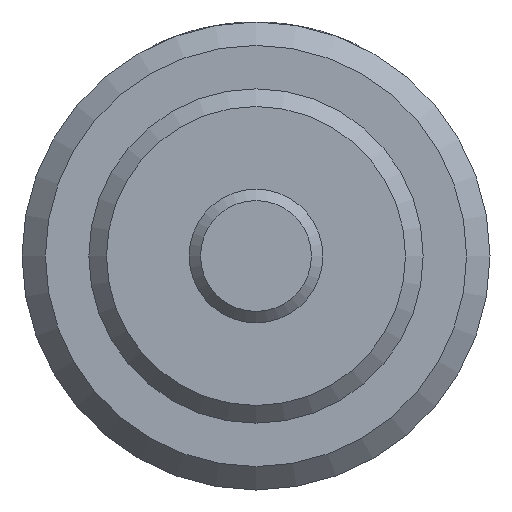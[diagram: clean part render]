
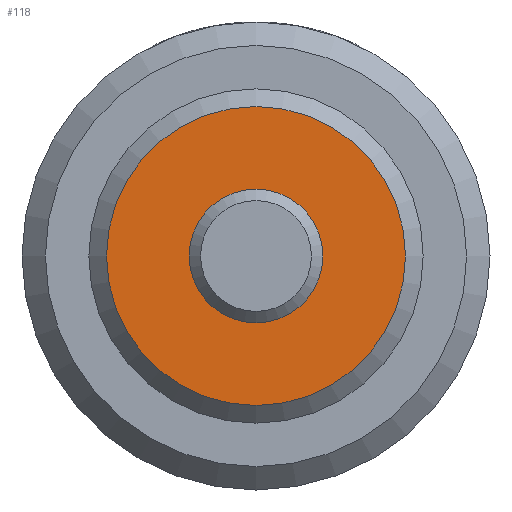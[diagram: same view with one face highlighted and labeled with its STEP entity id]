
A CAD part, left-side view. The second image highlights one B-rep face of the part: STEP entity #118.
In plain terms, the highlighted planar face has unit normal (-1, 0, 0).
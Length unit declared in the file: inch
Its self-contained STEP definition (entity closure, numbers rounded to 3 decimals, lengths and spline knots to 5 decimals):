
#118 = ADVANCED_FACE( '', ( #249, #250 ), #251, .F. );
#249 = FACE_OUTER_BOUND( '', #429, .T. );
#250 = FACE_BOUND( '', #430, .T. );
#251 = PLANE( '', #431 );
#429 = EDGE_LOOP( '', ( #606 ) );
#430 = EDGE_LOOP( '', ( #607 ) );
#431 = AXIS2_PLACEMENT_3D( '', #608, #609, #610 );
#606 = ORIENTED_EDGE( '', *, *, #893, .F. );
#607 = ORIENTED_EDGE( '', *, *, #894, .T. );
#608 = CARTESIAN_POINT( '', ( 0., 0., 0. ) );
#609 = DIRECTION( '', ( 1., 0., 0. ) );
#610 = DIRECTION( '', ( 0., 0., -1. ) );
#893 = EDGE_CURVE( '', #1006, #1006, #1007, .T. );
#894 = EDGE_CURVE( '', #1008, #1008, #1009, .T. );
#1006 = VERTEX_POINT( '', #1189 );
#1007 = CIRCLE( '', #1190, 0.27945 );
#1008 = VERTEX_POINT( '', #1191 );
#1009 = CIRCLE( '', #1192, 0.125 );
#1189 = CARTESIAN_POINT( '', ( 0., 0., -0.27945 ) );
#1190 = AXIS2_PLACEMENT_3D( '', #1486, #1487, #1488 );
#1191 = CARTESIAN_POINT( '', ( 0., 0., -0.125 ) );
#1192 = AXIS2_PLACEMENT_3D( '', #1489, #1490, #1491 );
#1486 = CARTESIAN_POINT( '', ( 0., 0., 0. ) );
#1487 = DIRECTION( '', ( 1., 0., 0. ) );
#1488 = DIRECTION( '', ( 0., 0., -1. ) );
#1489 = CARTESIAN_POINT( '', ( 0., 0., 0. ) );
#1490 = DIRECTION( '', ( 1., 0., 0. ) );
#1491 = DIRECTION( '', ( 0., 0., -1. ) );
